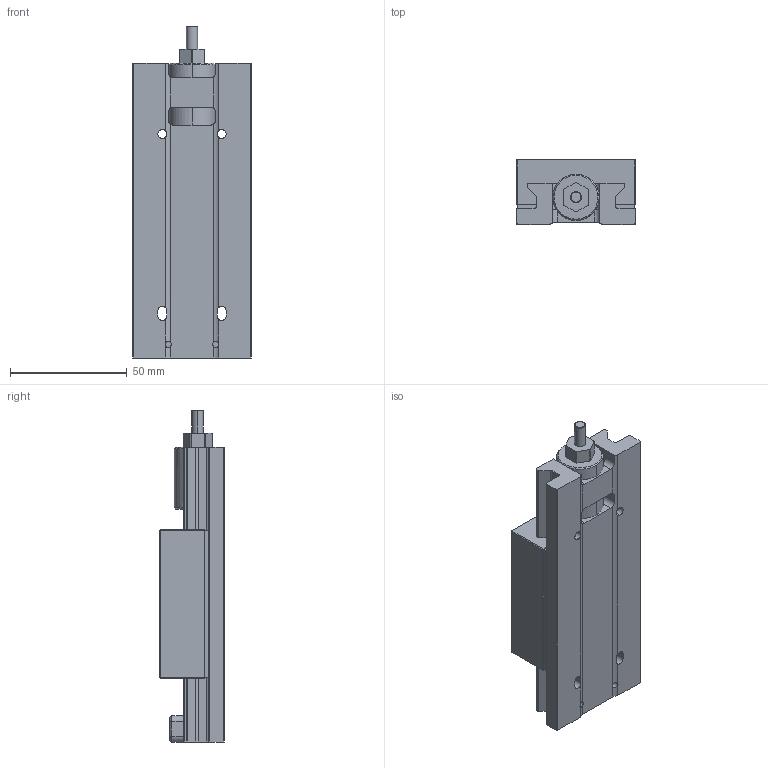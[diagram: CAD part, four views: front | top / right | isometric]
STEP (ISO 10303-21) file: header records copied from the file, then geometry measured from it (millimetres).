
FILE_DESCRIPTION (( 'STEP AP214' ), '1' );
FILE_NAME ('AMETEK-WGS06K-A-0050-01.00-001-R-00.STEP', '2022-03-03T15:29:26', ( '' ), ( '' ), 'SwSTEP 2.0', 'SolidWorks 2021', '' );
FILE_SCHEMA (( 'AUTOMOTIVE_DESIGN' ));
Length unit declared in the file: inch
Products named in the file (1): AMETEK-WGS06K-A-0050-01.00-001-R-00
Bounding box: 50.8 x 27.79 x 142.02 mm (x, y, z)
Volume: 129276.9 mm3; surface area: 45136.4 mm2
Topology: 2 solids, 2 shells, 263 faces, 777 edges, 506 vertices
Faces by surface type: cylinder 129, plane 115, cone 15, bspline 4
Entity records: 9380 total; most frequent: CARTESIAN_POINT 2264, ORIENTED_EDGE 1538, DIRECTION 1460, EDGE_CURVE 769, AXIS2_PLACEMENT_3D 513, VERTEX_POINT 506, LINE 434, VECTOR 434
